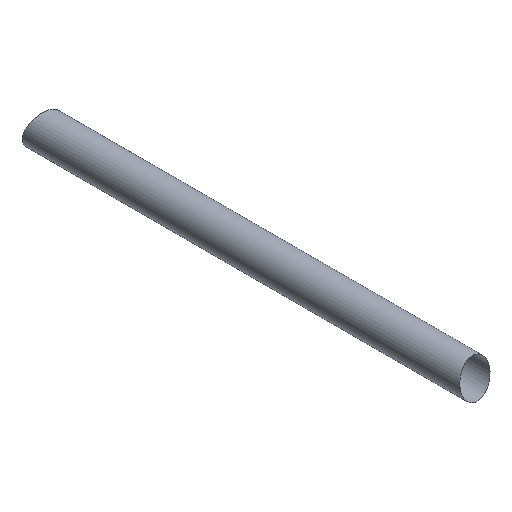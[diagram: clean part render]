
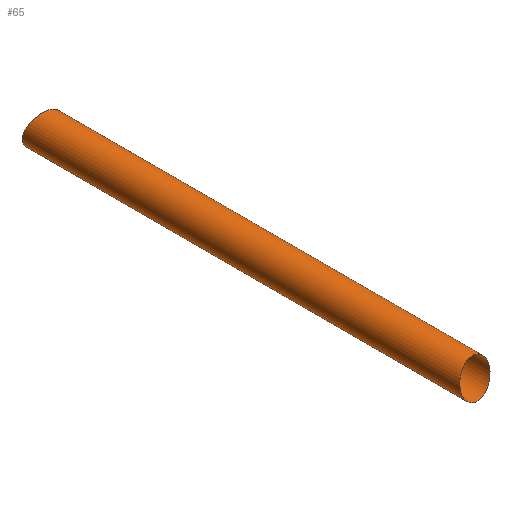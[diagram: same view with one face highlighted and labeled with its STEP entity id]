
A CAD part, isometric view. The second image highlights one B-rep face of the part: STEP entity #65.
In plain terms, the highlighted cylindrical face has radius 65 mm (diameter 130 mm), a full revolution.
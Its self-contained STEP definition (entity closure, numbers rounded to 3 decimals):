
#1=CARTESIAN_POINT('',(0.,-1466.564,699.493));
#2=CARTESIAN_POINT('',(831.552,-1466.564,699.493));
#3=CARTESIAN_POINT('',(-831.552,-1466.564,699.493));
#4=CARTESIAN_POINT('',(849.347,-1410.55,666.517));
#5=CARTESIAN_POINT('',(-849.347,-1410.55,666.517));
#10=DIRECTION('',(1.,0.,0.));
#11=DIRECTION('',(0.,-1.,0.));
#12=DIRECTION('',(0.965,-0.228,0.134));
#13=DIRECTION('',(-0.264,-0.831,0.489));
#17=DIRECTION('',(-0.965,-0.228,0.134));
#18=DIRECTION('',(0.264,-0.831,0.489));
#14=AXIS2_PLACEMENT_3D('',#1,#10,#11);
#15=AXIS2_PLACEMENT_3D('',#2,#12,#13);
#16=AXIS2_PLACEMENT_3D('',#3,#17,#18);
#20=VERTEX_POINT('',#4);
#21=VERTEX_POINT('',#5);
#30=ELLIPSE('',#15,67.392,65.);
#31=ELLIPSE('',#16,67.392,65.);
#40=EDGE_CURVE('',#20,#20,#30,.T.);
#41=EDGE_CURVE('',#21,#21,#31,.T.);
#50=ORIENTED_EDGE('',*,*,#40,.F.);
#51=ORIENTED_EDGE('',*,*,#41,.T.);
#60=EDGE_LOOP('',(#50));
#61=EDGE_LOOP('',(#51));
#62=FACE_OUTER_BOUND('',#60,.T.);
#63=FACE_BOUND('',#61,.T.);
#64=CYLINDRICAL_SURFACE('',#14,65.);
#65=ADVANCED_FACE('',(#62,#63),#64,.T.);
